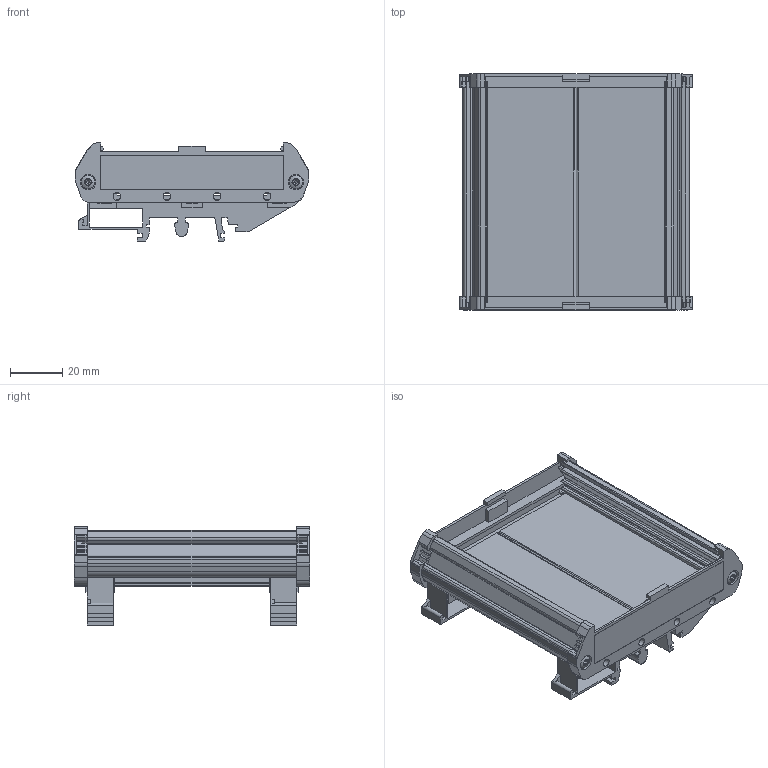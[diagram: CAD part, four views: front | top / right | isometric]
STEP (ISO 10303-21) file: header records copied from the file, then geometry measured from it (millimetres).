
FILE_DESCRIPTION(/* description */ (''),/* implementation_level */ '2;1');
FILE_NAME(/* name */ 'C:\Users\thijs\Desktop\Zilvertron\Phoenix\4000290\4000290.stp',/* time_stamp */ '2019-11-01T13:21:48+01:00',/* author */ ('thijs'),/* organization */ (''),/* preprocessor_version */ 'ST-DEVELOPER v18',/* originating_system */ 'Autodesk Inventor 2020',/* authorisation */ '');
FILE_SCHEMA (('AUTOMOTIVE_DESIGN { 1 0 10303 214 3 1 1 }'));
Length unit declared in the file: millimetre
Products named in the file (7): 4000290; pxc_2907583_00_UM-72-PROFIL_L=84,5; UM_72-PROFIL_H_L=74,5; pxc_2959337_01_UM-72-SE_3D; UM_72-SE_H.Select__00276902; Schr.Lins._3x14-Z_01151118; 39295
Assembly tree (9 placements, depth 3):
  4000290
    pxc_2907583_00_UM-72-PROFIL_L=84,5
      UM_72-PROFIL_H_L=74,5
    pxc_2959337_01_UM-72-SE_3D  x2
      UM_72-SE_H.Select__00276902
      Schr.Lins._3x14-Z_01151118
    39295  x2
Bounding box: 89.6 x 90.5 x 37.6 mm (x, y, z)
Volume: 49115.7 mm3; surface area: 50058.2 mm2
Topology: 9 solids, 9 shells, 1053 faces, 3131 edges, 2098 vertices
Faces by surface type: plane 672, cylinder 343, cone 20, bspline 10, sphere 4, torus 4
Full cylindrical faces by diameter (mm): 1.71 x36, 2.404 x4, 3 x10, 3.4 x4, 5.15 x4, 6 x4
Entity records: 20373 total; most frequent: CARTESIAN_POINT 5272, ORIENTED_EDGE 3200, DIRECTION 3086, EDGE_CURVE 1600, LINE 1128, VECTOR 1128, VERTEX_POINT 1072, AXIS2_PLACEMENT_3D 979
